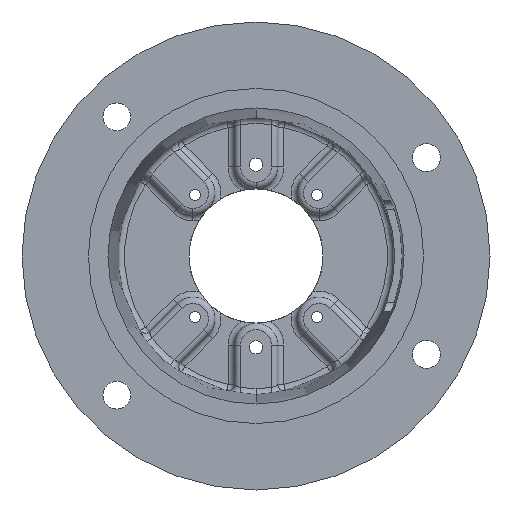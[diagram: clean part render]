
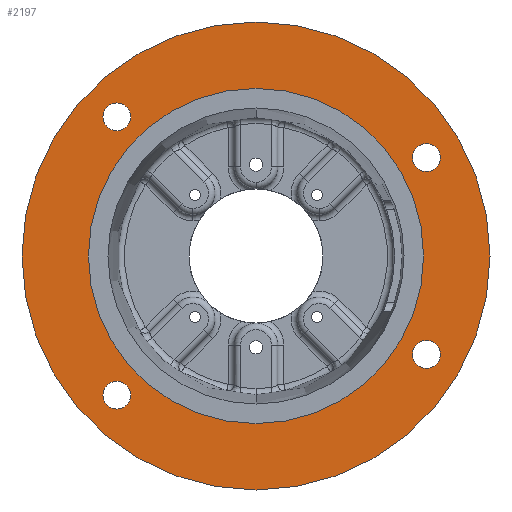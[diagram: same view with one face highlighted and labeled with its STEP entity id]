
A CAD part, front view. The second image highlights one B-rep face of the part: STEP entity #2197.
In plain terms, the highlighted planar face has unit normal (0, -1, 0).
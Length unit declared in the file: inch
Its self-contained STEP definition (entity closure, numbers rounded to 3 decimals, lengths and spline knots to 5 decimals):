
#22 = CARTESIAN_POINT ( 'NONE',  ( -3.27037, 0., 3.27037 ) ) ;
#50 = ORIENTED_EDGE ( 'NONE', *, *, #12187, .T. ) ;
#113 = CARTESIAN_POINT ( 'NONE',  ( 4.00537, 0., -2.3125 ) ) ;
#353 = DIRECTION ( 'NONE',  ( 0., 0., -1. ) ) ;
#371 = CARTESIAN_POINT ( 'NONE',  ( 0., 0., 5.5 ) ) ;
#511 = VERTEX_POINT ( 'NONE', #7725 ) ;
#715 = DIRECTION ( 'NONE',  ( 0., -1., 0. ) ) ;
#801 = EDGE_LOOP ( 'NONE', ( #5637, #4060 ) ) ;
#815 = DIRECTION ( 'NONE',  ( 0., -1., 0. ) ) ;
#870 = EDGE_CURVE ( 'NONE', #2518, #13343, #3401, .T. ) ;
#1092 = EDGE_CURVE ( 'NONE', #12824, #7627, #7387, .T. ) ;
#1141 = CIRCLE ( 'NONE', #3020, 3.9385 ) ;
#1167 = VERTEX_POINT ( 'NONE', #8908 ) ;
#1192 = CIRCLE ( 'NONE', #1763, 5.5 ) ;
#1203 = DIRECTION ( 'NONE',  ( 0., 0., -1. ) ) ;
#1234 = ORIENTED_EDGE ( 'NONE', *, *, #870, .F. ) ;
#1261 = AXIS2_PLACEMENT_3D ( 'NONE', #113, #7546, #1203 ) ;
#1367 = EDGE_CURVE ( 'NONE', #3667, #1167, #5391, .T. ) ;
#1407 = CARTESIAN_POINT ( 'NONE',  ( 0., 0., -5.5 ) ) ;
#1583 = ORIENTED_EDGE ( 'NONE', *, *, #6972, .F. ) ;
#1591 = FACE_BOUND ( 'NONE', #6764, .T. ) ;
#1763 = AXIS2_PLACEMENT_3D ( 'NONE', #6194, #13519, #7285 ) ;
#2103 = CIRCLE ( 'NONE', #6821, 0.32812 ) ;
#2197 = ADVANCED_FACE ( 'NONE', ( #7216, #1591, #12729, #4376, #9649, #6891 ), #9478, .F. ) ;
#2518 = VERTEX_POINT ( 'NONE', #5127 ) ;
#2524 = ORIENTED_EDGE ( 'NONE', *, *, #5707, .F. ) ;
#3020 = AXIS2_PLACEMENT_3D ( 'NONE', #4388, #11730, #5468 ) ;
#3023 = AXIS2_PLACEMENT_3D ( 'NONE', #7061, #715, #8114 ) ;
#3401 = CIRCLE ( 'NONE', #10687, 3.9385 ) ;
#3667 = VERTEX_POINT ( 'NONE', #13062 ) ;
#3734 = DIRECTION ( 'NONE',  ( 0., -1., 0. ) ) ;
#3917 = CARTESIAN_POINT ( 'NONE',  ( 4.00537, 0., -2.64063 ) ) ;
#3942 = EDGE_CURVE ( 'NONE', #6977, #9420, #13218, .T. ) ;
#4060 = ORIENTED_EDGE ( 'NONE', *, *, #1367, .F. ) ;
#4102 = DIRECTION ( 'NONE',  ( 0., 0., -1. ) ) ;
#4154 = DIRECTION ( 'NONE',  ( 0., 0., -1. ) ) ;
#4181 = DIRECTION ( 'NONE',  ( 0., -1., 0. ) ) ;
#4337 = CARTESIAN_POINT ( 'NONE',  ( 4.00537, 0., 1.98437 ) ) ;
#4376 = FACE_BOUND ( 'NONE', #801, .T. ) ;
#4388 = CARTESIAN_POINT ( 'NONE',  ( 0., 0., 0. ) ) ;
#4502 = CARTESIAN_POINT ( 'NONE',  ( 0., 0., 0. ) ) ;
#4513 = DIRECTION ( 'NONE',  ( 0., -1., 0. ) ) ;
#4530 = CARTESIAN_POINT ( 'NONE',  ( 4.00537, 0., 2.3125 ) ) ;
#5127 = CARTESIAN_POINT ( 'NONE',  ( 0., 0., -3.9385 ) ) ;
#5227 = DIRECTION ( 'NONE',  ( 0., -1., 0. ) ) ;
#5290 = CARTESIAN_POINT ( 'NONE',  ( -3.27037, 0., -3.27037 ) ) ;
#5361 = VERTEX_POINT ( 'NONE', #1407 ) ;
#5391 = CIRCLE ( 'NONE', #9476, 0.32812 ) ;
#5468 = DIRECTION ( 'NONE',  ( 0., 0., -1. ) ) ;
#5610 = CARTESIAN_POINT ( 'NONE',  ( -3.27037, 0., -2.94224 ) ) ;
#5637 = ORIENTED_EDGE ( 'NONE', *, *, #11513, .F. ) ;
#5707 = EDGE_CURVE ( 'NONE', #11381, #511, #9714, .T. ) ;
#5749 = CIRCLE ( 'NONE', #1261, 0.32812 ) ;
#5968 = CARTESIAN_POINT ( 'NONE',  ( -3.27037, 0., 3.27037 ) ) ;
#6013 = ORIENTED_EDGE ( 'NONE', *, *, #11259, .F. ) ;
#6133 = DIRECTION ( 'NONE',  ( 0., 1., 0. ) ) ;
#6194 = CARTESIAN_POINT ( 'NONE',  ( 0., 0., 0. ) ) ;
#6327 = DIRECTION ( 'NONE',  ( 0., 0., -1. ) ) ;
#6476 = CARTESIAN_POINT ( 'NONE',  ( 4.00537, 0., 2.64062 ) ) ;
#6764 = EDGE_LOOP ( 'NONE', ( #1583, #9412 ) ) ;
#6821 = AXIS2_PLACEMENT_3D ( 'NONE', #10059, #3734, #11090 ) ;
#6891 = FACE_OUTER_BOUND ( 'NONE', #7577, .T. ) ;
#6972 = EDGE_CURVE ( 'NONE', #7627, #12824, #5749, .T. ) ;
#6977 = VERTEX_POINT ( 'NONE', #4337 ) ;
#7042 = DIRECTION ( 'NONE',  ( 0., 0., -1. ) ) ;
#7061 = CARTESIAN_POINT ( 'NONE',  ( 0., 0., 0. ) ) ;
#7216 = FACE_BOUND ( 'NONE', #8235, .T. ) ;
#7285 = DIRECTION ( 'NONE',  ( 0., 0., -1. ) ) ;
#7387 = CIRCLE ( 'NONE', #11139, 0.32812 ) ;
#7546 = DIRECTION ( 'NONE',  ( 0., -1., 0. ) ) ;
#7577 = EDGE_LOOP ( 'NONE', ( #8216, #50 ) ) ;
#7627 = VERTEX_POINT ( 'NONE', #3917 ) ;
#7635 = CIRCLE ( 'NONE', #12246, 0.32812 ) ;
#7725 = CARTESIAN_POINT ( 'NONE',  ( -3.27037, 0., -3.59849 ) ) ;
#7936 = CIRCLE ( 'NONE', #10173, 0.32812 ) ;
#8043 = DIRECTION ( 'NONE',  ( 0., 0., -1. ) ) ;
#8083 = DIRECTION ( 'NONE',  ( 0., -1., 0. ) ) ;
#8114 = DIRECTION ( 'NONE',  ( 0., 0., -1. ) ) ;
#8125 = CARTESIAN_POINT ( 'NONE',  ( 4.00537, 0., -2.3125 ) ) ;
#8216 = ORIENTED_EDGE ( 'NONE', *, *, #9844, .T. ) ;
#8235 = EDGE_LOOP ( 'NONE', ( #11238, #10197 ) ) ;
#8345 = CARTESIAN_POINT ( 'NONE',  ( -5.5, 0., 0. ) ) ;
#8908 = CARTESIAN_POINT ( 'NONE',  ( -3.27037, 0., 2.94224 ) ) ;
#9242 = EDGE_CURVE ( 'NONE', #511, #11381, #2103, .T. ) ;
#9412 = ORIENTED_EDGE ( 'NONE', *, *, #1092, .F. ) ;
#9420 = VERTEX_POINT ( 'NONE', #6476 ) ;
#9476 = AXIS2_PLACEMENT_3D ( 'NONE', #22, #815, #353 ) ;
#9478 = PLANE ( 'NONE',  #13578 ) ;
#9649 = FACE_BOUND ( 'NONE', #10215, .T. ) ;
#9714 = CIRCLE ( 'NONE', #12013, 0.32812 ) ;
#9844 = EDGE_CURVE ( 'NONE', #5361, #12360, #1192, .T. ) ;
#10059 = CARTESIAN_POINT ( 'NONE',  ( -3.27037, 0., -3.27037 ) ) ;
#10173 = AXIS2_PLACEMENT_3D ( 'NONE', #5968, #13287, #7042 ) ;
#10177 = DIRECTION ( 'NONE',  ( 0., 0., 1. ) ) ;
#10197 = ORIENTED_EDGE ( 'NONE', *, *, #10771, .F. ) ;
#10215 = EDGE_LOOP ( 'NONE', ( #1234, #6013 ) ) ;
#10687 = AXIS2_PLACEMENT_3D ( 'NONE', #4502, #4181, #4102 ) ;
#10771 = EDGE_CURVE ( 'NONE', #9420, #6977, #7635, .T. ) ;
#11090 = DIRECTION ( 'NONE',  ( 0., 0., -1. ) ) ;
#11139 = AXIS2_PLACEMENT_3D ( 'NONE', #8125, #8083, #8043 ) ;
#11198 = AXIS2_PLACEMENT_3D ( 'NONE', #4530, #4513, #4154 ) ;
#11238 = ORIENTED_EDGE ( 'NONE', *, *, #3942, .F. ) ;
#11259 = EDGE_CURVE ( 'NONE', #13343, #2518, #1141, .T. ) ;
#11296 = CARTESIAN_POINT ( 'NONE',  ( 0., 0., 3.9385 ) ) ;
#11381 = VERTEX_POINT ( 'NONE', #5610 ) ;
#11409 = CARTESIAN_POINT ( 'NONE',  ( 4.00537, 0., -1.98438 ) ) ;
#11487 = CARTESIAN_POINT ( 'NONE',  ( 4.00537, 0., 2.3125 ) ) ;
#11508 = ORIENTED_EDGE ( 'NONE', *, *, #9242, .F. ) ;
#11513 = EDGE_CURVE ( 'NONE', #1167, #3667, #7936, .T. ) ;
#11730 = DIRECTION ( 'NONE',  ( 0., -1., 0. ) ) ;
#11994 = CIRCLE ( 'NONE', #3023, 5.5 ) ;
#12013 = AXIS2_PLACEMENT_3D ( 'NONE', #5290, #12583, #6327 ) ;
#12187 = EDGE_CURVE ( 'NONE', #12360, #5361, #11994, .T. ) ;
#12246 = AXIS2_PLACEMENT_3D ( 'NONE', #11487, #5227, #12529 ) ;
#12260 = EDGE_LOOP ( 'NONE', ( #11508, #2524 ) ) ;
#12360 = VERTEX_POINT ( 'NONE', #371 ) ;
#12529 = DIRECTION ( 'NONE',  ( 0., 0., -1. ) ) ;
#12583 = DIRECTION ( 'NONE',  ( 0., -1., 0. ) ) ;
#12729 = FACE_BOUND ( 'NONE', #12260, .T. ) ;
#12824 = VERTEX_POINT ( 'NONE', #11409 ) ;
#13062 = CARTESIAN_POINT ( 'NONE',  ( -3.27037, 0., 3.59849 ) ) ;
#13218 = CIRCLE ( 'NONE', #11198, 0.32812 ) ;
#13287 = DIRECTION ( 'NONE',  ( 0., -1., 0. ) ) ;
#13343 = VERTEX_POINT ( 'NONE', #11296 ) ;
#13519 = DIRECTION ( 'NONE',  ( 0., -1., 0. ) ) ;
#13578 = AXIS2_PLACEMENT_3D ( 'NONE', #8345, #6133, #10177 ) ;
